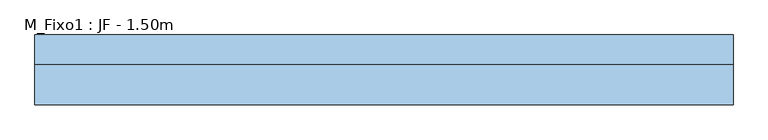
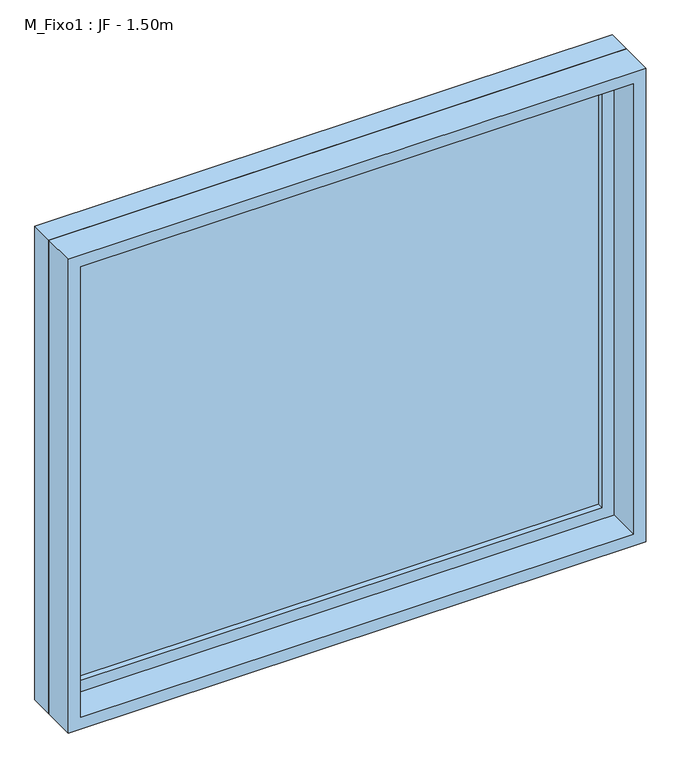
"""IFC4 building model written with IfcOpenShell, lengths in millimetres: window geometry, M_Fixo1 : JF - 1.50m."""

from ifc_helpers import new_model, si_unit, frame, origin, place, context, project, spatial, polyline, outline, extrude, source, transform, mapped, element, save


def m_fixo1_jf_1_50m_d319f19e(model_context):
    return source(origin(), model_context, "Body", "SweptSolid", [
        extrude(outline(polyline([(-687.0, 53.0), (687.0, 53.0), (687.0, 41.0), (-687.0, 41.0), (-687.0, 53.0)])), frame((0.0, 0.0, 978.0), z_axis=(0.0, 0.0, 1.0), x_axis=(1.0, 0.0, 0.0)), (0.0, 0.0, 1.0), 1174.0),
        extrude(outline(polyline([(2196.0, -731.0), (934.0, -731.0), (934.0, 731.0), (2196.0, 731.0), (2196.0, -731.0)]), holes=[polyline([(2152.0, -687.0), (2152.0, 687.0), (978.0, 687.0), (978.0, -687.0), (2152.0, -687.0)])]), frame((0.0, 25.0, 0.0), z_axis=(0.0, 1.0, 0.0), x_axis=(0.0, 0.0, 1.0)), (0.0, 0.0, 1.0), 44.0),
        extrude(outline(polyline([(2215.0, -750.0), (915.0, -750.0), (915.0, 750.0), (2215.0, 750.0), (2215.0, -750.0)]), holes=[polyline([(2196.0, -731.0), (2196.0, 731.0), (934.0, 731.0), (934.0, -731.0), (2196.0, -731.0)])]), frame((0.0, 25.0, 0.0), z_axis=(0.0, 1.0, 0.0), x_axis=(0.0, 0.0, 1.0)), (0.0, 0.0, 1.0), 63.0),
        extrude(outline(polyline([(2215.0, -750.0), (915.0, -750.0), (915.0, 750.0), (2215.0, 750.0), (2215.0, -750.0)]), holes=[polyline([(2183.0, -718.0), (2183.0, 718.0), (947.0, 718.0), (947.0, -718.0), (2183.0, -718.0)])]), frame((0.0, -62.0, 0.0), z_axis=(0.0, 1.0, 0.0), x_axis=(0.0, 0.0, 1.0)), (0.0, 0.0, 1.0), 87.0),
    ])


if __name__ == "__main__":
    model = new_model("IFC4")
    model_context = context("Model", 3, world=origin())
    ifc_project = project(units=[si_unit("LENGTHUNIT", "METRE", prefix="MILLI")], contexts=[model_context])
    site = spatial("IfcSite", under=ifc_project)
    building = spatial("IfcBuilding", under=site)
    placement = place(None, origin())
    m_fixo1_jf_1_50m_shape = m_fixo1_jf_1_50m_d319f19e(model_context)
    element("IfcWindow", 1, ObjectType="M_Fixo1 : JF - 1.50m", at=placement, inside=building, context=model_context, shape_type="MappedRepresentation", body=[
        mapped(m_fixo1_jf_1_50m_shape, transform((0.0, 0.0, 0.0), x_axis=(1.0, 0.0, 0.0), y_axis=(0.0, 1.0, 0.0), z_axis=(0.0, 0.0, 1.0))),
    ])
    save(model, "model.ifc")
